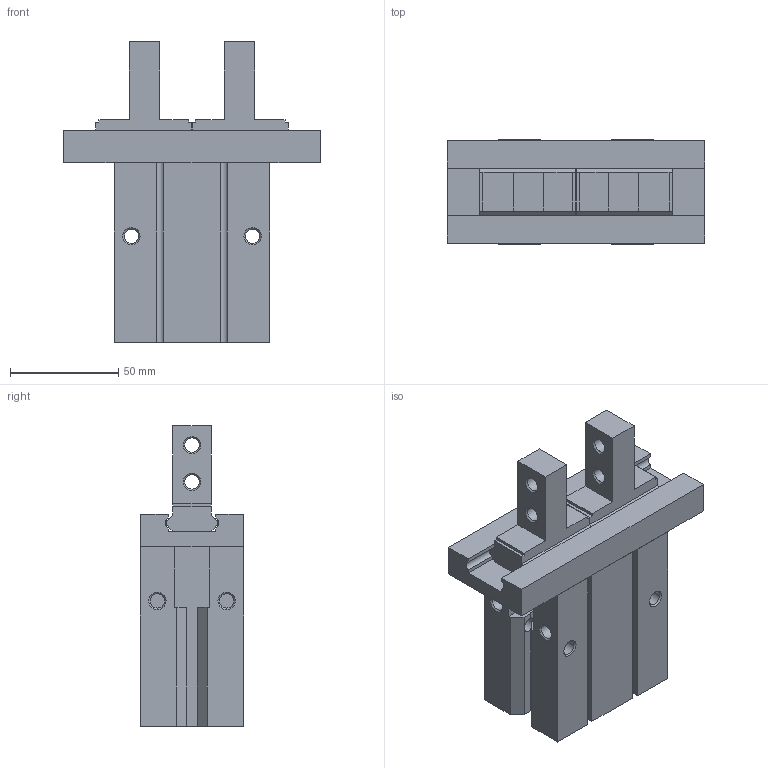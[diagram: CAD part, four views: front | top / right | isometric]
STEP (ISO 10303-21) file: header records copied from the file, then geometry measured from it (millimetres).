
FILE_DESCRIPTION( ( 'STEP AP214' ), '1' );
FILE_NAME( 'F:/CRG-3D-PAN-XU/CRG-chan pin kai fa cun dang - xu/协助/样品整理/平行夹/MHZ2-40D_30_0_.stp', '2023-03-07T10:06:31', ( '' ), ( '' ), ' ', 'PARTsolutions', ' ' );
FILE_SCHEMA( ( 'AUTOMOTIVE_DESIGN { 1 0 10303 214 1 1 1 1 }' ) );
Length unit declared in the file: millimetre
Products named in the file (3): MHZ2-40D(30_0); _MHZ2-40D_Body(0); _MHZ2-40D_Finger(0)
Assembly tree (3 placements, depth 2):
  MHZ2-40D(30_0)
    _MHZ2-40D_Body(0)
    _MHZ2-40D_Finger(0)  x2
Bounding box: 119 x 48 x 139 mm (x, y, z)
Volume: 348148.6 mm3; surface area: 62121.6 mm2
Topology: 3 solids, 3 shells, 200 faces, 516 edges, 334 vertices
Faces by surface type: plane 148, cylinder 30, cone 22
Full cylindrical faces by diameter (mm): 4.134 x2, 5 x1, 6.6 x4, 6.647 x12, 42 x1
Entity records: 6060 total; most frequent: CARTESIAN_POINT 811, DIRECTION 794, ORIENTED_EDGE 756, EDGE_CURVE 378, LINE 296, VECTOR 296, VERTEX_POINT 266, AXIS2_PLACEMENT_3D 249
